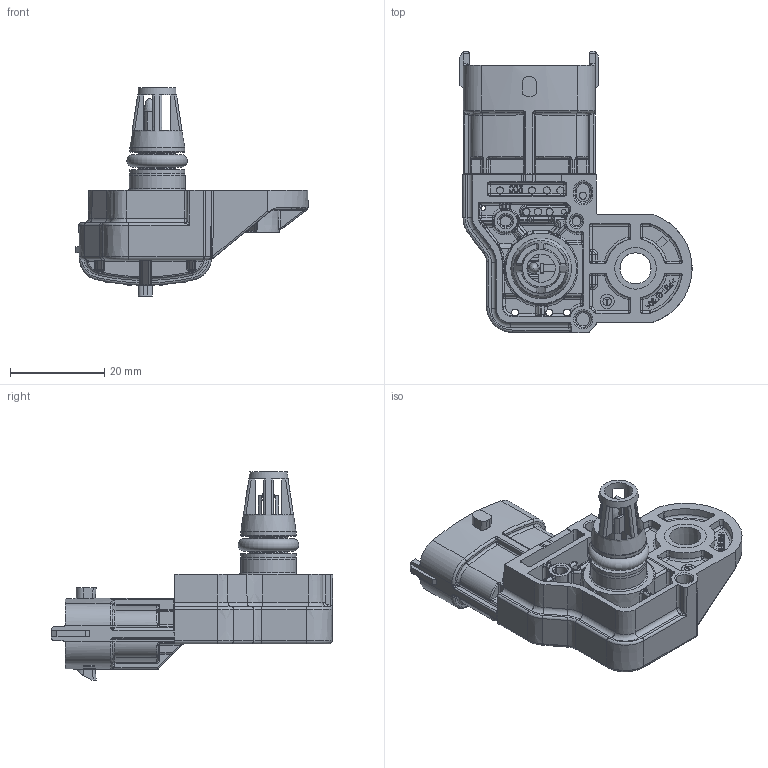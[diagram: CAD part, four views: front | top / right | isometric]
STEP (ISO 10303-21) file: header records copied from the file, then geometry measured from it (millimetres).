
FILE_DESCRIPTION(/* description */ (''),/* implementation_level */ '2;1');
FILE_NAME(/* name */ '0261A15355_a_01.stp',/* time_stamp */ '2018-01-31T10:55:12+01:00',/* author */ (''),/* organization */ (''),/* preprocessor_version */ 'ST-DEVELOPER v16',/* originating_system */ 'SIEMENS PLM Software NX 11.0',/* authorisation */ '');
FILE_SCHEMA (('AUTOMOTIVE_DESIGN { 1 0 10303 214 3 1 1 1 }'));
Products named in the file (1): LEB2249C4827esxs
Bounding box: 49.18 x 59.63 x 44.1 mm (x, y, z)
Volume: 15989.6 mm3; surface area: 12040.5 mm2
Topology: 1 solids, 1 shells, 1802 faces, 4430 edges, 2543 vertices
Faces by surface type: plane 553, cylinder 444, bspline 420, sphere 130, torus 120, extrusion 75, cone 59, revolution 1
Full cylindrical faces by diameter (mm): 0.58 x4, 1 x2, 1.5 x11, 1.8 x1, 2.5 x1, 3 x1, 6 x1, 7.9 x2, 11.7 x2, 11.85 x1
Entity records: 60497 total; most frequent: CARTESIAN_POINT 20944, ORIENTED_EDGE 8434, DIRECTION 7697, EDGE_CURVE 4217, AXIS2_PLACEMENT_3D 2918, VERTEX_POINT 2517, EDGE_LOOP 1920, VECTOR 1860
